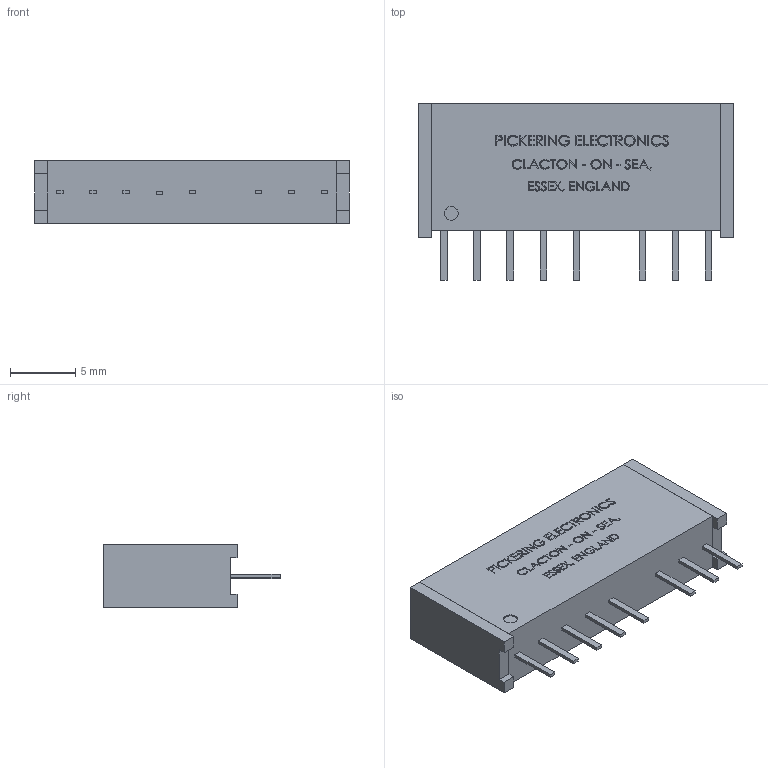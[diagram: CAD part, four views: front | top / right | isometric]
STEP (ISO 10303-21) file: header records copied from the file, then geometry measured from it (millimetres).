
FILE_DESCRIPTION (( 'STEP AP203' ), '1' );
FILE_NAME ('107-2-C-x-xx.STEP', '2010-06-30T13:10:30', ( ' ' ), ( '' ), 'SwSTEP 2.0', 'SolidWorks 2009', '' );
FILE_SCHEMA (( 'CONFIG_CONTROL_DESIGN' ));
Products named in the file (1): 107-2-C-x-xx
Bounding box: 24.1 x 13.5 x 4.8 mm (x, y, z)
Volume: 1125.9 mm3; surface area: 1062 mm2
Topology: 11 solids, 11 shells, 1013 faces, 2664 edges, 1776 vertices
Faces by surface type: plane 735, bspline 276, cylinder 2
Entity records: 46379 total; most frequent: CARTESIAN_POINT 23146, ORIENTED_EDGE 5328, DIRECTION 3592, EDGE_CURVE 2664, LINE 2108, VECTOR 2108, VERTEX_POINT 1776, EDGE_LOOP 1116
